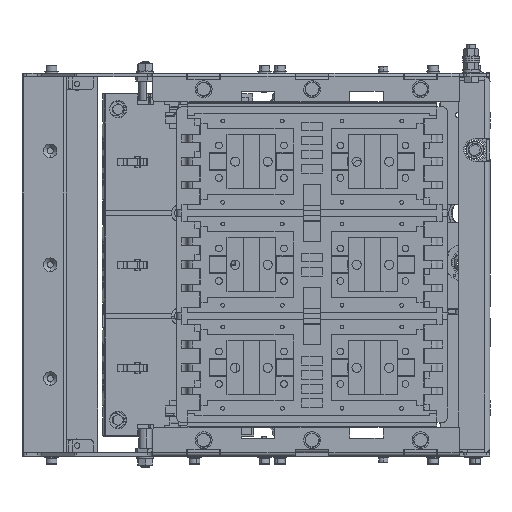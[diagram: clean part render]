
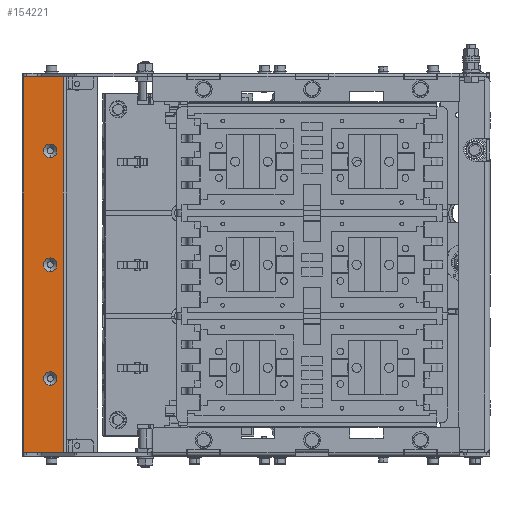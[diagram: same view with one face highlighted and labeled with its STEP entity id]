
A CAD part, left-side view. The second image highlights one B-rep face of the part: STEP entity #154221.
In plain terms, the highlighted planar face has unit normal (-1, 0, 0).
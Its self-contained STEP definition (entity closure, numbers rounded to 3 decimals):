
#4625 = ORIENTED_EDGE ( 'NONE', *, *, #55441, .T. ) ;
#6369 = LINE ( 'NONE', #79199, #97697 ) ;
#7217 = ORIENTED_EDGE ( 'NONE', *, *, #125594, .T. ) ;
#7310 = FACE_BOUND ( 'NONE', #66680, .T. ) ;
#7528 = VERTEX_POINT ( 'NONE', #133114 ) ;
#7566 = VERTEX_POINT ( 'NONE', #95977 ) ;
#7954 = CARTESIAN_POINT ( 'NONE',  ( 295.956, 580.613, -172.412 ) ) ;
#15725 = DIRECTION ( 'NONE',  ( 1., 0., 0. ) ) ;
#16750 = CIRCLE ( 'NONE', #46376, 6.25 ) ;
#18943 = DIRECTION ( 'NONE',  ( 0., 0., 1. ) ) ;
#19298 = CARTESIAN_POINT ( 'NONE',  ( 295.956, 592.813, 0.888 ) ) ;
#19440 = EDGE_CURVE ( 'NONE', #69922, #64079, #24378, .T. ) ;
#20153 = EDGE_CURVE ( 'NONE', #78892, #7528, #6369, .T. ) ;
#24378 = CIRCLE ( 'NONE', #74532, 6.25 ) ;
#24987 = VERTEX_POINT ( 'NONE', #51820 ) ;
#25302 = CIRCLE ( 'NONE', #47615, 6.25 ) ;
#25814 = EDGE_LOOP ( 'NONE', ( #145223, #140357 ) ) ;
#26678 = ORIENTED_EDGE ( 'NONE', *, *, #19440, .T. ) ;
#29156 = LINE ( 'NONE', #79764, #46517 ) ;
#31280 = CARTESIAN_POINT ( 'NONE',  ( 295.956, 618.813, -172.412 ) ) ;
#36604 = DIRECTION ( 'NONE',  ( 1., 0., 0. ) ) ;
#43732 = VERTEX_POINT ( 'NONE', #143316 ) ;
#44691 = DIRECTION ( 'NONE',  ( 0., 0., -1. ) ) ;
#44799 = CARTESIAN_POINT ( 'NONE',  ( 295.956, 592.813, 112.138 ) ) ;
#46376 = AXIS2_PLACEMENT_3D ( 'NONE', #63914, #137350, #138426 ) ;
#46517 = VECTOR ( 'NONE', #18943, 1000. ) ;
#46627 = DIRECTION ( 'NONE',  ( 0., 0., -1. ) ) ;
#47615 = AXIS2_PLACEMENT_3D ( 'NONE', #64144, #15725, #151625 ) ;
#48053 = AXIS2_PLACEMENT_3D ( 'NONE', #98410, #36604, #110409 ) ;
#49125 = AXIS2_PLACEMENT_3D ( 'NONE', #98986, #51227, #88138 ) ;
#50401 = DIRECTION ( 'NONE',  ( 0., -1., 0. ) ) ;
#51227 = DIRECTION ( 'NONE',  ( 1., 0., 0. ) ) ;
#51820 = CARTESIAN_POINT ( 'NONE',  ( 295.956, 592.813, -5.362 ) ) ;
#53616 = EDGE_CURVE ( 'NONE', #78892, #80304, #74103, .T. ) ;
#54574 = EDGE_CURVE ( 'NONE', #7566, #43732, #126113, .T. ) ;
#55441 = EDGE_CURVE ( 'NONE', #24987, #110018, #115601, .T. ) ;
#56670 = AXIS2_PLACEMENT_3D ( 'NONE', #19298, #79590, #143235 ) ;
#57534 = EDGE_CURVE ( 'NONE', #43732, #7566, #16750, .T. ) ;
#57569 = VECTOR ( 'NONE', #69251, 1000. ) ;
#60096 = CARTESIAN_POINT ( 'NONE',  ( 295.956, 592.813, 7.138 ) ) ;
#63914 = CARTESIAN_POINT ( 'NONE',  ( 295.956, 592.813, -104.112 ) ) ;
#64079 = VERTEX_POINT ( 'NONE', #68188 ) ;
#64144 = CARTESIAN_POINT ( 'NONE',  ( 295.956, 592.813, 105.888 ) ) ;
#66313 = EDGE_CURVE ( 'NONE', #68145, #7528, #29156, .T. ) ;
#66680 = EDGE_LOOP ( 'NONE', ( #26678, #113160 ) ) ;
#68145 = VERTEX_POINT ( 'NONE', #7954 ) ;
#68188 = CARTESIAN_POINT ( 'NONE',  ( 295.956, 592.813, 99.638 ) ) ;
#69251 = DIRECTION ( 'NONE',  ( 0., -1., 0. ) ) ;
#69332 = LINE ( 'NONE', #31280, #57569 ) ;
#69922 = VERTEX_POINT ( 'NONE', #44799 ) ;
#73876 = ORIENTED_EDGE ( 'NONE', *, *, #53616, .T. ) ;
#74103 = LINE ( 'NONE', #95978, #85702 ) ;
#74532 = AXIS2_PLACEMENT_3D ( 'NONE', #85073, #135212, #145560 ) ;
#75391 = EDGE_CURVE ( 'NONE', #80304, #68145, #69332, .T. ) ;
#78892 = VERTEX_POINT ( 'NONE', #103568 ) ;
#79199 = CARTESIAN_POINT ( 'NONE',  ( 295.956, 618.813, 174.188 ) ) ;
#79262 = AXIS2_PLACEMENT_3D ( 'NONE', #83741, #156203, #44691 ) ;
#79590 = DIRECTION ( 'NONE',  ( 1., 0., 0. ) ) ;
#79764 = CARTESIAN_POINT ( 'NONE',  ( 295.956, 580.613, 174.188 ) ) ;
#80304 = VERTEX_POINT ( 'NONE', #97722 ) ;
#83741 = CARTESIAN_POINT ( 'NONE',  ( 295.956, 592.813, -104.112 ) ) ;
#85073 = CARTESIAN_POINT ( 'NONE',  ( 295.956, 592.813, 105.888 ) ) ;
#85702 = VECTOR ( 'NONE', #46627, 1000. ) ;
#88138 = DIRECTION ( 'NONE',  ( 0., 1., 0. ) ) ;
#90996 = CIRCLE ( 'NONE', #56670, 6.25 ) ;
#95977 = CARTESIAN_POINT ( 'NONE',  ( 295.956, 592.813, -110.362 ) ) ;
#95978 = CARTESIAN_POINT ( 'NONE',  ( 295.956, 617.813, 174.188 ) ) ;
#97697 = VECTOR ( 'NONE', #50401, 1000. ) ;
#97722 = CARTESIAN_POINT ( 'NONE',  ( 295.956, 617.813, -172.412 ) ) ;
#98410 = CARTESIAN_POINT ( 'NONE',  ( 295.956, 592.813, 0.888 ) ) ;
#98624 = FACE_BOUND ( 'NONE', #25814, .T. ) ;
#98986 = CARTESIAN_POINT ( 'NONE',  ( 295.956, 618.813, 174.188 ) ) ;
#102518 = ORIENTED_EDGE ( 'NONE', *, *, #66313, .T. ) ;
#103568 = CARTESIAN_POINT ( 'NONE',  ( 295.956, 617.813, 174.188 ) ) ;
#110018 = VERTEX_POINT ( 'NONE', #60096 ) ;
#110409 = DIRECTION ( 'NONE',  ( 0., 0., -1. ) ) ;
#113160 = ORIENTED_EDGE ( 'NONE', *, *, #121948, .T. ) ;
#114929 = ORIENTED_EDGE ( 'NONE', *, *, #20153, .F. ) ;
#115601 = CIRCLE ( 'NONE', #48053, 6.25 ) ;
#118176 = FACE_BOUND ( 'NONE', #133185, .T. ) ;
#120335 = ORIENTED_EDGE ( 'NONE', *, *, #75391, .T. ) ;
#121936 = EDGE_LOOP ( 'NONE', ( #114929, #73876, #120335, #102518 ) ) ;
#121948 = EDGE_CURVE ( 'NONE', #64079, #69922, #25302, .T. ) ;
#125594 = EDGE_CURVE ( 'NONE', #110018, #24987, #90996, .T. ) ;
#125784 = PLANE ( 'NONE',  #49125 ) ;
#126113 = CIRCLE ( 'NONE', #79262, 6.25 ) ;
#127970 = FACE_OUTER_BOUND ( 'NONE', #121936, .T. ) ;
#133114 = CARTESIAN_POINT ( 'NONE',  ( 295.956, 580.613, 174.188 ) ) ;
#133185 = EDGE_LOOP ( 'NONE', ( #7217, #4625 ) ) ;
#135212 = DIRECTION ( 'NONE',  ( 1., 0., 0. ) ) ;
#137350 = DIRECTION ( 'NONE',  ( 1., 0., 0. ) ) ;
#138426 = DIRECTION ( 'NONE',  ( 0., 0., -1. ) ) ;
#140357 = ORIENTED_EDGE ( 'NONE', *, *, #54574, .T. ) ;
#143235 = DIRECTION ( 'NONE',  ( 0., 0., -1. ) ) ;
#143316 = CARTESIAN_POINT ( 'NONE',  ( 295.956, 592.813, -97.862 ) ) ;
#145223 = ORIENTED_EDGE ( 'NONE', *, *, #57534, .T. ) ;
#145560 = DIRECTION ( 'NONE',  ( 0., 0., -1. ) ) ;
#151625 = DIRECTION ( 'NONE',  ( 0., 0., -1. ) ) ;
#154221 = ADVANCED_FACE ( 'NONE', ( #127970, #7310, #118176, #98624 ), #125784, .F. ) ;
#156203 = DIRECTION ( 'NONE',  ( 1., 0., 0. ) ) ;
